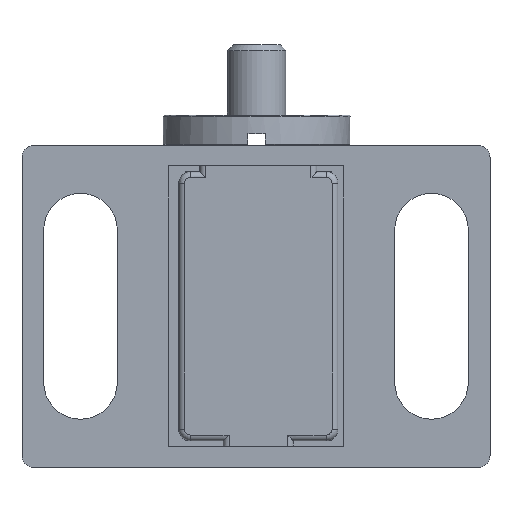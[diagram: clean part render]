
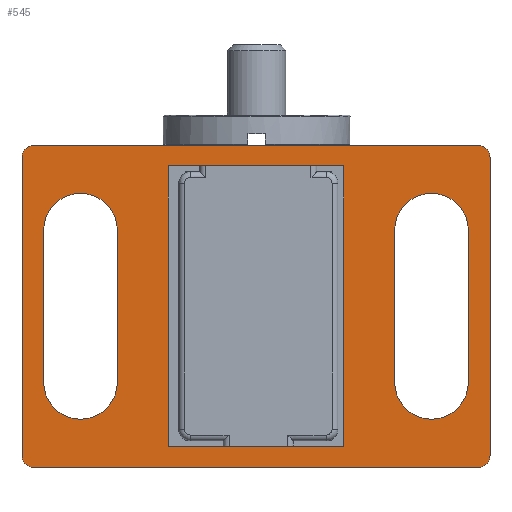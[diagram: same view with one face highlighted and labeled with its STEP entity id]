
A CAD part, front view. The second image highlights one B-rep face of the part: STEP entity #545.
In plain terms, the highlighted planar face has unit normal (0, -1, 0).
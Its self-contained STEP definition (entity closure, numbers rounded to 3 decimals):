
#212=CARTESIAN_POINT('',(0.0,0.0,-1.0));
#213=VERTEX_POINT('',#212);
#214=CARTESIAN_POINT('',(1.,0.0,0.0));
#215=VERTEX_POINT('',#214);
#216=CARTESIAN_POINT('',(1.,0.0,-1.0));
#217=DIRECTION('',(0.0,1.0,0.0));
#218=DIRECTION('',(-0.707,0.0,0.707));
#219=AXIS2_PLACEMENT_3D('',#216,#217,#218);
#220=CIRCLE('',#219,1.0);
#221=EDGE_CURVE('',#213,#215,#220,.T.);
#276=CARTESIAN_POINT('',(1.,0.0,-27.5));
#277=VERTEX_POINT('',#276);
#278=CARTESIAN_POINT('',(0.0,0.0,-26.5));
#279=VERTEX_POINT('',#278);
#280=CARTESIAN_POINT('',(1.,0.0,-26.5));
#281=DIRECTION('',(0.0,1.0,0.0));
#282=DIRECTION('',(-0.707,0.0,-0.707));
#283=AXIS2_PLACEMENT_3D('',#280,#281,#282);
#284=CIRCLE('',#283,1.);
#285=EDGE_CURVE('',#277,#279,#284,.T.);
#318=CARTESIAN_POINT('',(39.0,0.0,0.0));
#319=VERTEX_POINT('',#318);
#320=CARTESIAN_POINT('',(1.,0.0,0.0));
#321=DIRECTION('',(1.0,0.0,0.0));
#322=VECTOR('',#321,38.0);
#323=LINE('',#320,#322);
#324=EDGE_CURVE('',#215,#319,#323,.T.);
#391=CARTESIAN_POINT('',(0.0,0.0,0.0));
#392=DIRECTION('',(0.0,-1.0,0.0));
#393=DIRECTION('',(0.0,0.0,-1.0));
#394=AXIS2_PLACEMENT_3D('',#391,#392,#393);
#395=PLANE('',#394);
#396=ORIENTED_EDGE('',*,*,#221,.F.);
#397=CARTESIAN_POINT('',(0.0,0.0,-1.0));
#398=DIRECTION('',(0.0,0.0,-1.0));
#399=VECTOR('',#398,25.5);
#400=LINE('',#397,#399);
#401=EDGE_CURVE('',#213,#279,#400,.T.);
#402=ORIENTED_EDGE('',*,*,#401,.T.);
#403=ORIENTED_EDGE('',*,*,#285,.F.);
#404=CARTESIAN_POINT('',(39.0,0.0,-27.5));
#405=VERTEX_POINT('',#404);
#406=CARTESIAN_POINT('',(1.,0.0,-27.5));
#407=DIRECTION('',(1.0,0.0,0.0));
#408=VECTOR('',#407,38.0);
#409=LINE('',#406,#408);
#410=EDGE_CURVE('',#277,#405,#409,.T.);
#411=ORIENTED_EDGE('',*,*,#410,.T.);
#412=CARTESIAN_POINT('',(40.0,0.0,-26.5));
#413=VERTEX_POINT('',#412);
#414=CARTESIAN_POINT('',(39.0,0.,-26.5));
#415=DIRECTION('',(0.0,1.,0.0));
#416=DIRECTION('',(0.707,0.0,-0.707));
#417=AXIS2_PLACEMENT_3D('',#414,#415,#416);
#418=CIRCLE('',#417,1.);
#419=EDGE_CURVE('',#413,#405,#418,.T.);
#420=ORIENTED_EDGE('',*,*,#419,.F.);
#421=CARTESIAN_POINT('',(40.0,0.0,-1.0));
#422=VERTEX_POINT('',#421);
#423=CARTESIAN_POINT('',(40.0,0.0,-1.0));
#424=DIRECTION('',(0.0,0.0,-1.0));
#425=VECTOR('',#424,25.5);
#426=LINE('',#423,#425);
#427=EDGE_CURVE('',#422,#413,#426,.T.);
#428=ORIENTED_EDGE('',*,*,#427,.F.);
#429=CARTESIAN_POINT('',(39.0,0.,-1.0));
#430=DIRECTION('',(0.0,1.,0.0));
#431=DIRECTION('',(0.707,0.0,0.707));
#432=AXIS2_PLACEMENT_3D('',#429,#430,#431);
#433=CIRCLE('',#432,1.);
#434=EDGE_CURVE('',#319,#422,#433,.T.);
#435=ORIENTED_EDGE('',*,*,#434,.F.);
#436=ORIENTED_EDGE('',*,*,#324,.F.);
#437=EDGE_LOOP('',(#396,#402,#403,#411,#420,#428,#435,#436));
#438=FACE_OUTER_BOUND('',#437,.T.);
#439=CARTESIAN_POINT('',(31.85,0.0,-20.25));
#440=VERTEX_POINT('',#439);
#441=CARTESIAN_POINT('',(31.85,0.0,-7.25));
#442=VERTEX_POINT('',#441);
#443=CARTESIAN_POINT('',(31.85,0.0,-20.25));
#444=DIRECTION('',(0.0,0.0,1.0));
#445=VECTOR('',#444,13.);
#446=LINE('',#443,#445);
#447=EDGE_CURVE('',#440,#442,#446,.T.);
#448=ORIENTED_EDGE('',*,*,#447,.T.);
#449=CARTESIAN_POINT('',(38.15,0.0,-7.25));
#450=VERTEX_POINT('',#449);
#451=CARTESIAN_POINT('',(35.0,0.0,-7.25));
#452=DIRECTION('',(0.0,1.0,0.0));
#453=DIRECTION('',(1.0,0.0,0.0));
#454=AXIS2_PLACEMENT_3D('',#451,#452,#453);
#455=CIRCLE('',#454,3.15);
#456=EDGE_CURVE('',#442,#450,#455,.T.);
#457=ORIENTED_EDGE('',*,*,#456,.T.);
#458=CARTESIAN_POINT('',(38.15,0.0,-20.25));
#459=VERTEX_POINT('',#458);
#460=CARTESIAN_POINT('',(38.15,0.0,-7.25));
#461=DIRECTION('',(0.0,0.0,-1.0));
#462=VECTOR('',#461,13.);
#463=LINE('',#460,#462);
#464=EDGE_CURVE('',#450,#459,#463,.T.);
#465=ORIENTED_EDGE('',*,*,#464,.T.);
#466=CARTESIAN_POINT('',(35.0,0.0,-20.25));
#467=DIRECTION('',(0.0,1.0,0.0));
#468=DIRECTION('',(1.0,0.0,0.0));
#469=AXIS2_PLACEMENT_3D('',#466,#467,#468);
#470=CIRCLE('',#469,3.15);
#471=EDGE_CURVE('',#459,#440,#470,.T.);
#472=ORIENTED_EDGE('',*,*,#471,.T.);
#473=EDGE_LOOP('',(#448,#457,#465,#472));
#474=FACE_BOUND('',#473,.T.);
#475=CARTESIAN_POINT('',(1.85,0.0,-20.25));
#476=VERTEX_POINT('',#475);
#477=CARTESIAN_POINT('',(1.85,0.0,-7.25));
#478=VERTEX_POINT('',#477);
#479=CARTESIAN_POINT('',(1.85,0.0,-20.25));
#480=DIRECTION('',(0.0,0.0,1.0));
#481=VECTOR('',#480,13.);
#482=LINE('',#479,#481);
#483=EDGE_CURVE('',#476,#478,#482,.T.);
#484=ORIENTED_EDGE('',*,*,#483,.T.);
#485=CARTESIAN_POINT('',(8.15,0.0,-7.25));
#486=VERTEX_POINT('',#485);
#487=CARTESIAN_POINT('',(5.,0.0,-7.25));
#488=DIRECTION('',(0.0,1.0,0.0));
#489=DIRECTION('',(1.0,0.0,0.0));
#490=AXIS2_PLACEMENT_3D('',#487,#488,#489);
#491=CIRCLE('',#490,3.15);
#492=EDGE_CURVE('',#478,#486,#491,.T.);
#493=ORIENTED_EDGE('',*,*,#492,.T.);
#494=CARTESIAN_POINT('',(8.15,0.0,-20.25));
#495=VERTEX_POINT('',#494);
#496=CARTESIAN_POINT('',(8.15,0.0,-7.25));
#497=DIRECTION('',(0.0,0.0,-1.0));
#498=VECTOR('',#497,13.);
#499=LINE('',#496,#498);
#500=EDGE_CURVE('',#486,#495,#499,.T.);
#501=ORIENTED_EDGE('',*,*,#500,.T.);
#502=CARTESIAN_POINT('',(5.,0.0,-20.25));
#503=DIRECTION('',(0.0,1.0,0.0));
#504=DIRECTION('',(1.0,0.0,0.0));
#505=AXIS2_PLACEMENT_3D('',#502,#503,#504);
#506=CIRCLE('',#505,3.15);
#507=EDGE_CURVE('',#495,#476,#506,.T.);
#508=ORIENTED_EDGE('',*,*,#507,.T.);
#509=EDGE_LOOP('',(#484,#493,#501,#508));
#510=FACE_BOUND('',#509,.T.);
#511=CARTESIAN_POINT('',(12.5,0.0,-25.75));
#512=VERTEX_POINT('',#511);
#513=CARTESIAN_POINT('',(12.5,0.0,-1.75));
#514=VERTEX_POINT('',#513);
#515=CARTESIAN_POINT('',(12.5,0.0,-25.75));
#516=DIRECTION('',(0.0,0.0,1.0));
#517=VECTOR('',#516,24.0);
#518=LINE('',#515,#517);
#519=EDGE_CURVE('',#512,#514,#518,.T.);
#520=ORIENTED_EDGE('',*,*,#519,.T.);
#521=CARTESIAN_POINT('',(27.5,0.0,-1.75));
#522=VERTEX_POINT('',#521);
#523=CARTESIAN_POINT('',(12.5,0.0,-1.75));
#524=DIRECTION('',(1.0,0.0,0.0));
#525=VECTOR('',#524,15.0);
#526=LINE('',#523,#525);
#527=EDGE_CURVE('',#514,#522,#526,.T.);
#528=ORIENTED_EDGE('',*,*,#527,.T.);
#529=CARTESIAN_POINT('',(27.5,0.0,-25.75));
#530=VERTEX_POINT('',#529);
#531=CARTESIAN_POINT('',(27.5,0.0,-1.75));
#532=DIRECTION('',(0.0,0.0,-1.0));
#533=VECTOR('',#532,24.);
#534=LINE('',#531,#533);
#535=EDGE_CURVE('',#522,#530,#534,.T.);
#536=ORIENTED_EDGE('',*,*,#535,.T.);
#537=CARTESIAN_POINT('',(27.5,0.0,-25.75));
#538=DIRECTION('',(-1.0,0.0,0.0));
#539=VECTOR('',#538,15.);
#540=LINE('',#537,#539);
#541=EDGE_CURVE('',#530,#512,#540,.T.);
#542=ORIENTED_EDGE('',*,*,#541,.T.);
#543=EDGE_LOOP('',(#520,#528,#536,#542));
#544=FACE_BOUND('',#543,.T.);
#545=ADVANCED_FACE('',(#438,#474,#510,#544),#395,.T.);
